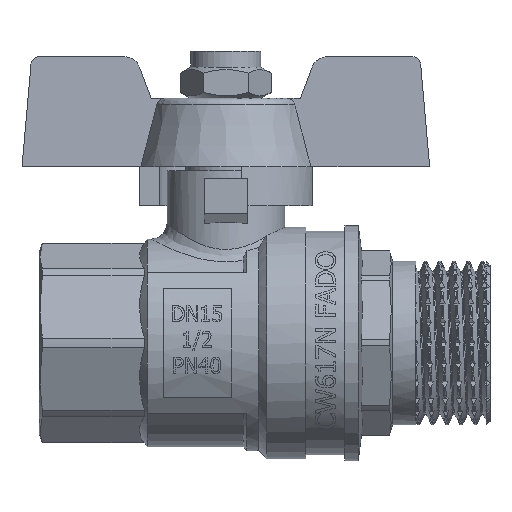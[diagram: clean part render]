
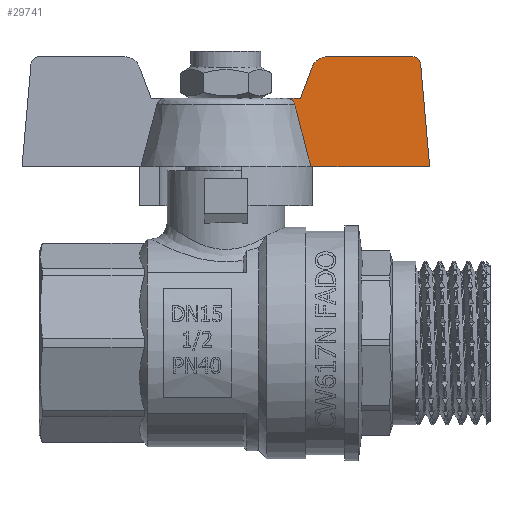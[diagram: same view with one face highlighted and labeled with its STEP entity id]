
A CAD part, top view. The second image highlights one B-rep face of the part: STEP entity #29741.
In plain terms, the highlighted planar face has unit normal (0, 0.035, 0.999) as drawn and (-0.999, 0.035, 0) by its records, which use the part's own axes.
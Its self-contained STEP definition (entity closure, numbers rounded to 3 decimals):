
#736=(
BOUNDED_CURVE()
B_SPLINE_CURVE(2,(#39037,#39038,#39039,#39040),.UNSPECIFIED.,.F.,.F.)
B_SPLINE_CURVE_WITH_KNOTS((3,1,3),(202.672,204.434,205.693),
 .UNSPECIFIED.)
CURVE()
GEOMETRIC_REPRESENTATION_ITEM()
RATIONAL_B_SPLINE_CURVE((26.423,25.181,23.011,
22.096))
REPRESENTATION_ITEM('')
);
#870=ELLIPSE('',#31640,1.001,1.);
#871=ELLIPSE('',#31641,2.001,2.);
#1007=B_SPLINE_CURVE_WITH_KNOTS('',3,(#39026,#39027,#39028,#39029,#39030,
#39031,#39032,#39033,#39034,#39035),.UNSPECIFIED.,.F.,.F.,(4,2,2,2,4),(0.024,
0.036,0.074,0.112,0.152),
 .UNSPECIFIED.);
#3787=PLANE('',#31639);
#4548=FACE_OUTER_BOUND('',#6275,.T.);
#6275=EDGE_LOOP('',(#20012,#20013,#20014,#20015,#20016,#20017,#20018,#20019,
#20020));
#8114=LINE('',#39042,#9682);
#8115=LINE('',#39044,#9683);
#8116=LINE('',#39048,#9684);
#8117=LINE('',#39052,#9685);
#8118=LINE('',#39053,#9686);
#9682=VECTOR('',#33606,10.);
#9683=VECTOR('',#33607,10.);
#9684=VECTOR('',#33610,10.);
#9685=VECTOR('',#33613,10.);
#9686=VECTOR('',#33614,10.);
#11898=VERTEX_POINT('',#39024);
#11899=VERTEX_POINT('',#39025);
#11900=VERTEX_POINT('',#39036);
#11901=VERTEX_POINT('',#39041);
#11902=VERTEX_POINT('',#39043);
#11903=VERTEX_POINT('',#39045);
#11904=VERTEX_POINT('',#39047);
#11905=VERTEX_POINT('',#39049);
#11906=VERTEX_POINT('',#39051);
#15141=EDGE_CURVE('',#11898,#11899,#1007,.T.);
#15142=EDGE_CURVE('',#11900,#11898,#736,.F.);
#15143=EDGE_CURVE('',#11900,#11901,#8114,.T.);
#15144=EDGE_CURVE('',#11901,#11902,#8115,.F.);
#15145=EDGE_CURVE('',#11902,#11903,#870,.F.);
#15146=EDGE_CURVE('',#11903,#11904,#8116,.F.);
#15147=EDGE_CURVE('',#11904,#11905,#871,.F.);
#15148=EDGE_CURVE('',#11905,#11906,#8117,.F.);
#15149=EDGE_CURVE('',#11906,#11899,#8118,.T.);
#20012=ORIENTED_EDGE('',*,*,#15141,.F.);
#20013=ORIENTED_EDGE('',*,*,#15142,.F.);
#20014=ORIENTED_EDGE('',*,*,#15143,.T.);
#20015=ORIENTED_EDGE('',*,*,#15144,.T.);
#20016=ORIENTED_EDGE('',*,*,#15145,.T.);
#20017=ORIENTED_EDGE('',*,*,#15146,.T.);
#20018=ORIENTED_EDGE('',*,*,#15147,.T.);
#20019=ORIENTED_EDGE('',*,*,#15148,.T.);
#20020=ORIENTED_EDGE('',*,*,#15149,.T.);
#29741=ADVANCED_FACE('',(#4548),#3787,.F.);
#31639=AXIS2_PLACEMENT_3D('',#39023,#33604,#33605);
#31640=AXIS2_PLACEMENT_3D('',#39046,#33608,#33609);
#31641=AXIS2_PLACEMENT_3D('',#39050,#33611,#33612);
#33604=DIRECTION('center_axis',(0.999,-0.035,0.));
#33605=DIRECTION('ref_axis',(0.,0.,-1.));
#33606=DIRECTION('',(0.,0.,1.));
#33607=DIRECTION('',(-0.035,-0.996,0.087));
#33608=DIRECTION('center_axis',(0.999,-0.035,0.));
#33609=DIRECTION('ref_axis',(0.035,0.999,0.));
#33610=DIRECTION('',(0.,0.,1.));
#33611=DIRECTION('center_axis',(0.999,-0.035,0.));
#33612=DIRECTION('ref_axis',(0.035,0.999,0.));
#33613=DIRECTION('',(0.033,0.935,0.353));
#33614=DIRECTION('',(0.,0.,-1.));
#39023=CARTESIAN_POINT('Origin',(-2.754,7.001,0.));
#39024=CARTESIAN_POINT('',(-2.721,7.95,8.782));
#39025=CARTESIAN_POINT('',(-2.695,8.7,7.772));
#39026=CARTESIAN_POINT('Ctrl Pts',(-2.721,7.95,8.782));
#39027=CARTESIAN_POINT('Ctrl Pts',(-2.72,7.995,8.77));
#39028=CARTESIAN_POINT('Ctrl Pts',(-2.718,8.038,8.756));
#39029=CARTESIAN_POINT('Ctrl Pts',(-2.713,8.191,8.692));
#39030=CARTESIAN_POINT('Ctrl Pts',(-2.708,8.314,8.609));
#39031=CARTESIAN_POINT('Ctrl Pts',(-2.702,8.49,8.43));
#39032=CARTESIAN_POINT('Ctrl Pts',(-2.699,8.573,8.301));
#39033=CARTESIAN_POINT('Ctrl Pts',(-2.696,8.67,8.06));
#39034=CARTESIAN_POINT('Ctrl Pts',(-2.695,8.7,7.904));
#39035=CARTESIAN_POINT('Ctrl Pts',(-2.695,8.7,7.772));
#39036=CARTESIAN_POINT('',(-2.999,0.,10.843));
#39037=CARTESIAN_POINT('Ctrl Pts',(-2.721,7.95,8.782));
#39038=CARTESIAN_POINT('Ctrl Pts',(-2.791,5.948,9.303));
#39039=CARTESIAN_POINT('Ctrl Pts',(-2.931,1.932,10.343));
#39040=CARTESIAN_POINT('Ctrl Pts',(-2.999,0.,
10.843));
#39041=CARTESIAN_POINT('',(-2.999,0.,26.));
#39042=CARTESIAN_POINT('',(-2.999,0.,0.));
#39043=CARTESIAN_POINT('',(-2.542,13.087,24.855));
#39044=CARTESIAN_POINT('',(-2.608,11.189,25.021));
#39045=CARTESIAN_POINT('',(-2.51,14.,23.859));
#39046=CARTESIAN_POINT('Origin',(-2.545,13.,23.859));
#39047=CARTESIAN_POINT('',(-2.51,14.,12.883));
#39048=CARTESIAN_POINT('',(-2.51,14.,6.441));
#39049=CARTESIAN_POINT('',(-2.555,12.706,11.012));
#39050=CARTESIAN_POINT('Origin',(-2.58,12.,12.883));
#39051=CARTESIAN_POINT('',(-2.695,8.7,9.5));
#39052=CARTESIAN_POINT('',(-2.774,6.43,8.643));
#39053=CARTESIAN_POINT('',(-2.695,8.7,-9.5));
